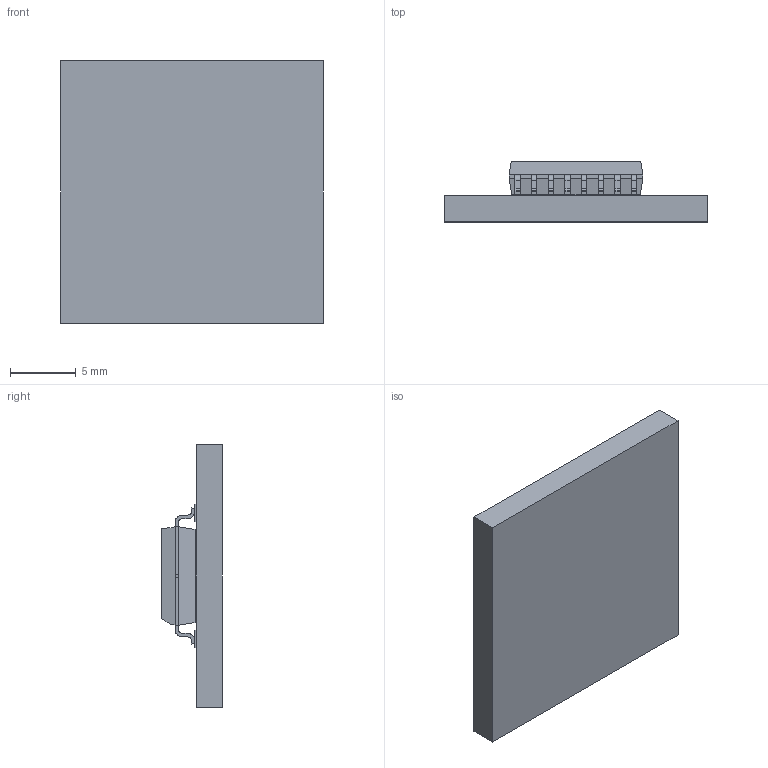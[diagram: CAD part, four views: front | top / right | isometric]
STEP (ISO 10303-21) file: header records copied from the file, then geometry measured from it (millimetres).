
FILE_DESCRIPTION (( 'STEP AP214' ), '1' );
FILE_NAME ('GXM AN.STEP', '2026-07-13T13:02:19', ( '' ), ( '' ), 'SwSTEP 2.0', 'SolidWorks 2026', '' );
FILE_SCHEMA (( 'AUTOMOTIVE_DESIGN' ));
Length unit declared in the file: millimetre
Products named in the file (18): CADLEM00046325; GXM AN DIE_Die100um; CADLEM00047341; GXM AN LF_GXM AN 13kA 2a; GXM AN PI TAPE; SOIC10WB BODY; CADLEM00047340; CADLEM00047338; CADLEM00046324; CADLEM00047343; CADLEM00047342; GXM AN; GXM AN FOOTPRINT_Level C; CADLEM00047345; GXM AN LF_GXM AN 13kA; GXM AN DAF; CADLEM00047344; CADLEM00047339
Assembly tree (33 placements, depth 2):
  GXM AN
    GXM AN LF_GXM AN 13kA
    GXM AN DIE_Die100um  x2
    GXM AN DAF  x2
    GXM AN PI TAPE
    GXM AN LF_GXM AN 13kA 2a
    CADLEM00046324  x8
    CADLEM00047340
    CADLEM00047338
    CADLEM00047339
    CADLEM00047341
    CADLEM00047342
    CADLEM00047343
    CADLEM00047344
    CADLEM00047345
    CADLEM00046325  x8
    GXM AN FOOTPRINT_Level C
    SOIC10WB BODY
Bounding box: 20 x 4.62 x 20 mm (x, y, z)
Volume: 1018.4 mm3; surface area: 1580.6 mm2
Topology: 89 solids, 89 shells, 1334 faces, 3180 edges, 2092 vertices
Faces by surface type: plane 1030, cylinder 238, bspline 34, cone 16, torus 16
Entity records: 36148 total; most frequent: CARTESIAN_POINT 8772, ORIENTED_EDGE 5358, DIRECTION 5261, EDGE_CURVE 2679, LINE 2237, VECTOR 2237, VERTEX_POINT 1779, AXIS2_PLACEMENT_3D 1512
